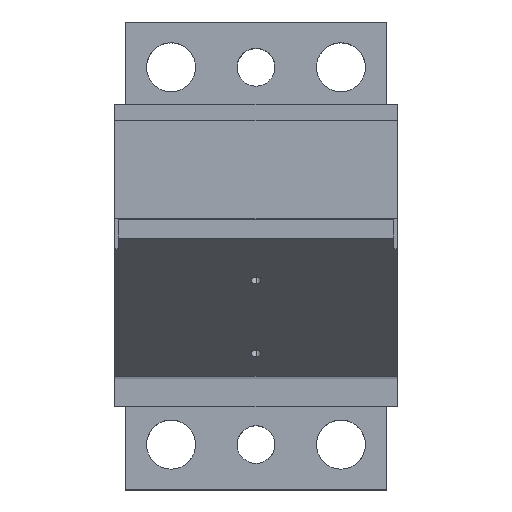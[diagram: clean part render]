
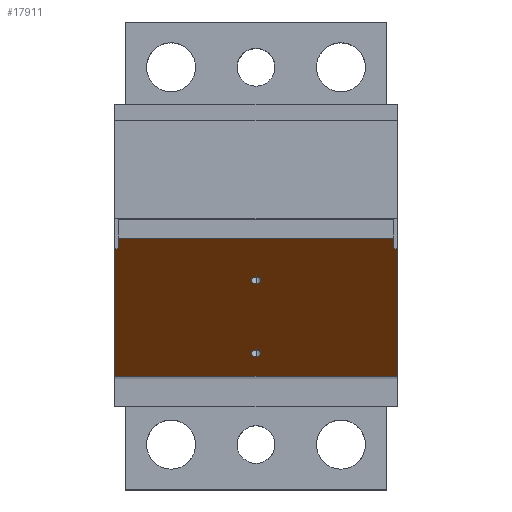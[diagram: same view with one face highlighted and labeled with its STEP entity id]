
A CAD part, top view. The second image highlights one B-rep face of the part: STEP entity #17911.
In plain terms, the highlighted planar face has unit normal (0, -0.766, 0.643).
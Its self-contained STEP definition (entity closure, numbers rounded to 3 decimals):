
#123 = EDGE_CURVE ( 'NONE', #17128, #2184, #4921, .T. ) ;
#388 = VERTEX_POINT ( 'NONE', #4070 ) ;
#520 = FACE_BOUND ( 'NONE', #8072, .T. ) ;
#623 = CARTESIAN_POINT ( 'NONE',  ( -37.5, -7.836, -20. ) ) ;
#1101 = VERTEX_POINT ( 'NONE', #15504 ) ;
#1202 = CARTESIAN_POINT ( 'NONE',  ( 37., -7.836, -20. ) ) ;
#1464 = FACE_BOUND ( 'NONE', #16442, .T. ) ;
#1543 = CARTESIAN_POINT ( 'NONE',  ( -36.5, -6.418, -18.31 ) ) ;
#1572 = AXIS2_PLACEMENT_3D ( 'NONE', #11259, #6785, #2297 ) ;
#1646 = CARTESIAN_POINT ( 'NONE',  ( -36.5, -7.836, -20. ) ) ;
#1956 = EDGE_LOOP ( 'NONE', ( #9191, #10874, #10900, #4010, #7758, #14296, #16849, #7499 ) ) ;
#2184 = VERTEX_POINT ( 'NONE', #16588 ) ;
#2285 = VERTEX_POINT ( 'NONE', #623 ) ;
#2297 = DIRECTION ( 'NONE',  ( 1., 0., 0. ) ) ;
#2367 = B_SPLINE_CURVE_WITH_KNOTS ( 'NONE', 3,
 ( #12443, #18572, #9674, #3699 ),
 .UNSPECIFIED., .F., .F.,
 ( 4, 4 ),
 ( 0., 1. ),
 .UNSPECIFIED. ) ;
#2451 = VERTEX_POINT ( 'NONE', #2542 ) ;
#2489 = ORIENTED_EDGE ( 'NONE', *, *, #8733, .T. ) ;
#2542 = CARTESIAN_POINT ( 'NONE',  ( -36.5, -5., -16.62 ) ) ;
#2564 = EDGE_CURVE ( 'NONE', #1101, #15147, #6892, .T. ) ;
#2624 = AXIS2_PLACEMENT_3D ( 'NONE', #8994, #2993, #10445 ) ;
#2853 = VECTOR ( 'NONE', #13214, 1000. ) ;
#2916 = VERTEX_POINT ( 'NONE', #9477 ) ;
#2957 = VECTOR ( 'NONE', #13752, 1000. ) ;
#2993 = DIRECTION ( 'NONE',  ( 0., 0.766, -0.643 ) ) ;
#3033 = EDGE_CURVE ( 'NONE', #2916, #18870, #5268, .T. ) ;
#3241 = CARTESIAN_POINT ( 'NONE',  ( 0., -17.02, -30.945 ) ) ;
#3348 = VECTOR ( 'NONE', #12412, 1000. ) ;
#3355 = EDGE_CURVE ( 'NONE', #18870, #2916, #8053, .T. ) ;
#3547 = EDGE_CURVE ( 'NONE', #18298, #10025, #6861, .T. ) ;
#3560 = CARTESIAN_POINT ( 'NONE',  ( 37.5, -7.836, -20. ) ) ;
#3699 = CARTESIAN_POINT ( 'NONE',  ( -37.5, -7.836, -20. ) ) ;
#4010 = ORIENTED_EDGE ( 'NONE', *, *, #18302, .F. ) ;
#4070 = CARTESIAN_POINT ( 'NONE',  ( 36.5, -5., -16.62 ) ) ;
#4160 = LINE ( 'NONE', #1543, #2957 ) ;
#4638 = LINE ( 'NONE', #8586, #16140 ) ;
#4921 = B_SPLINE_CURVE_WITH_KNOTS ( 'NONE', 3,
 ( #6778, #14099, #14219, #8095 ),
 .UNSPECIFIED., .F., .F.,
 ( 4, 4 ),
 ( 0., 1. ),
 .UNSPECIFIED. ) ;
#5268 = CIRCLE ( 'NONE', #1572, 1.25 ) ;
#5828 = DIRECTION ( 'NONE',  ( 1., 0., 0. ) ) ;
#6160 = PLANE ( 'NONE',  #18721 ) ;
#6348 = CARTESIAN_POINT ( 'NONE',  ( 37.5, -7.836, -20. ) ) ;
#6392 = AXIS2_PLACEMENT_3D ( 'NONE', #11103, #14346, #8146 ) ;
#6481 = VECTOR ( 'NONE', #5828, 1000. ) ;
#6502 = AXIS2_PLACEMENT_3D ( 'NONE', #8445, #15760, #11066 ) ;
#6778 = CARTESIAN_POINT ( 'NONE',  ( 37.5, -41.5, -60.12 ) ) ;
#6785 = DIRECTION ( 'NONE',  ( 0., 0.766, -0.643 ) ) ;
#6798 = B_SPLINE_CURVE_WITH_KNOTS ( 'NONE', 3,
 ( #3560, #17444, #17239, #9932 ),
 .UNSPECIFIED., .F., .F.,
 ( 4, 4 ),
 ( 0., 1. ),
 .UNSPECIFIED. ) ;
#6861 = LINE ( 'NONE', #1202, #2853 ) ;
#6892 = CIRCLE ( 'NONE', #6502, 1.25 ) ;
#7447 = CARTESIAN_POINT ( 'NONE',  ( -37., -7.836, -20. ) ) ;
#7499 = ORIENTED_EDGE ( 'NONE', *, *, #7962, .F. ) ;
#7758 = ORIENTED_EDGE ( 'NONE', *, *, #14639, .T. ) ;
#7962 = EDGE_CURVE ( 'NONE', #2184, #2285, #2367, .T. ) ;
#8053 = CIRCLE ( 'NONE', #6392, 1.25 ) ;
#8058 = EDGE_CURVE ( 'NONE', #10025, #17128, #6798, .T. ) ;
#8072 = EDGE_LOOP ( 'NONE', ( #17156, #15555 ) ) ;
#8095 = CARTESIAN_POINT ( 'NONE',  ( -37.5, -41.5, -60.12 ) ) ;
#8115 = LINE ( 'NONE', #7447, #6481 ) ;
#8146 = DIRECTION ( 'NONE',  ( 1., 0., 0. ) ) ;
#8445 = CARTESIAN_POINT ( 'NONE',  ( 0., -35.5, -52.969 ) ) ;
#8586 = CARTESIAN_POINT ( 'NONE',  ( 0., -5., -16.62 ) ) ;
#8630 = CARTESIAN_POINT ( 'NONE',  ( 0., -36.304, -53.926 ) ) ;
#8733 = EDGE_CURVE ( 'NONE', #15147, #1101, #18281, .T. ) ;
#8994 = CARTESIAN_POINT ( 'NONE',  ( 0., -35.5, -52.969 ) ) ;
#9158 = DIRECTION ( 'NONE',  ( 0., 0.766, -0.643 ) ) ;
#9191 = ORIENTED_EDGE ( 'NONE', *, *, #123, .F. ) ;
#9477 = CARTESIAN_POINT ( 'NONE',  ( 0., -15.413, -29.03 ) ) ;
#9674 = CARTESIAN_POINT ( 'NONE',  ( -37.5, -19.057, -33.373 ) ) ;
#9707 = LINE ( 'NONE', #15193, #3348 ) ;
#9932 = CARTESIAN_POINT ( 'NONE',  ( 37.5, -41.5, -60.12 ) ) ;
#10025 = VERTEX_POINT ( 'NONE', #6348 ) ;
#10100 = DIRECTION ( 'NONE',  ( -1., 0., 0. ) ) ;
#10355 = EDGE_CURVE ( 'NONE', #18750, #2451, #4160, .T. ) ;
#10445 = DIRECTION ( 'NONE',  ( 1., 0., 0. ) ) ;
#10795 = DIRECTION ( 'NONE',  ( -1., 0., 0. ) ) ;
#10874 = ORIENTED_EDGE ( 'NONE', *, *, #8058, .F. ) ;
#10900 = ORIENTED_EDGE ( 'NONE', *, *, #3547, .F. ) ;
#11066 = DIRECTION ( 'NONE',  ( 1., 0., 0. ) ) ;
#11103 = CARTESIAN_POINT ( 'NONE',  ( 0., -16.217, -29.987 ) ) ;
#11259 = CARTESIAN_POINT ( 'NONE',  ( 0., -16.217, -29.987 ) ) ;
#11375 = FACE_OUTER_BOUND ( 'NONE', #1956, .T. ) ;
#12326 = CARTESIAN_POINT ( 'NONE',  ( 37.5, -41.5, -60.12 ) ) ;
#12412 = DIRECTION ( 'NONE',  ( 0., -0.643, -0.766 ) ) ;
#12443 = CARTESIAN_POINT ( 'NONE',  ( -37.5, -41.5, -60.12 ) ) ;
#13214 = DIRECTION ( 'NONE',  ( 1., 0., 0. ) ) ;
#13750 = CARTESIAN_POINT ( 'NONE',  ( 36.5, -7.836, -20. ) ) ;
#13752 = DIRECTION ( 'NONE',  ( 0., 0.643, 0.766 ) ) ;
#13773 = CARTESIAN_POINT ( 'NONE',  ( 100., -42.5, -61.311 ) ) ;
#14099 = CARTESIAN_POINT ( 'NONE',  ( 12.5, -41.5, -60.12 ) ) ;
#14219 = CARTESIAN_POINT ( 'NONE',  ( -12.5, -41.5, -60.12 ) ) ;
#14296 = ORIENTED_EDGE ( 'NONE', *, *, #10355, .F. ) ;
#14346 = DIRECTION ( 'NONE',  ( 0., 0.766, -0.643 ) ) ;
#14639 = EDGE_CURVE ( 'NONE', #388, #2451, #4638, .T. ) ;
#15147 = VERTEX_POINT ( 'NONE', #8630 ) ;
#15148 = EDGE_CURVE ( 'NONE', #2285, #18750, #8115, .T. ) ;
#15193 = CARTESIAN_POINT ( 'NONE',  ( 36.5, -6.418, -18.31 ) ) ;
#15504 = CARTESIAN_POINT ( 'NONE',  ( 0., -34.697, -52.011 ) ) ;
#15555 = ORIENTED_EDGE ( 'NONE', *, *, #3355, .T. ) ;
#15653 = ORIENTED_EDGE ( 'NONE', *, *, #2564, .T. ) ;
#15760 = DIRECTION ( 'NONE',  ( 0., 0.766, -0.643 ) ) ;
#16140 = VECTOR ( 'NONE', #10100, 1000. ) ;
#16442 = EDGE_LOOP ( 'NONE', ( #15653, #2489 ) ) ;
#16588 = CARTESIAN_POINT ( 'NONE',  ( -37.5, -41.5, -60.12 ) ) ;
#16849 = ORIENTED_EDGE ( 'NONE', *, *, #15148, .F. ) ;
#17128 = VERTEX_POINT ( 'NONE', #12326 ) ;
#17156 = ORIENTED_EDGE ( 'NONE', *, *, #3033, .T. ) ;
#17239 = CARTESIAN_POINT ( 'NONE',  ( 37.5, -30.279, -46.747 ) ) ;
#17444 = CARTESIAN_POINT ( 'NONE',  ( 37.5, -19.057, -33.373 ) ) ;
#17911 = ADVANCED_FACE ( 'NONE', ( #11375, #1464, #520 ), #6160, .F. ) ;
#18281 = CIRCLE ( 'NONE', #2624, 1.25 ) ;
#18298 = VERTEX_POINT ( 'NONE', #13750 ) ;
#18302 = EDGE_CURVE ( 'NONE', #388, #18298, #9707, .T. ) ;
#18572 = CARTESIAN_POINT ( 'NONE',  ( -37.5, -30.279, -46.747 ) ) ;
#18721 = AXIS2_PLACEMENT_3D ( 'NONE', #13773, #9158, #10795 ) ;
#18750 = VERTEX_POINT ( 'NONE', #1646 ) ;
#18870 = VERTEX_POINT ( 'NONE', #3241 ) ;
